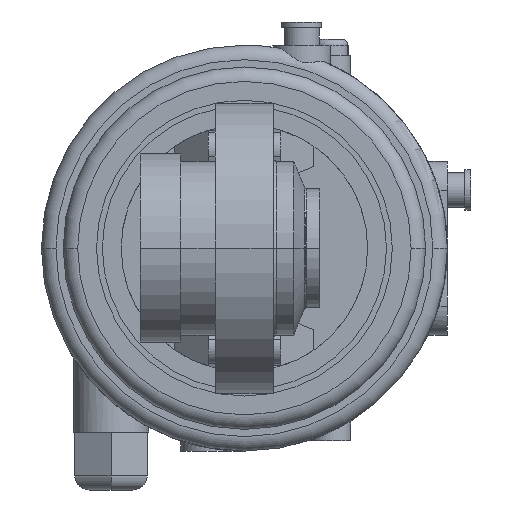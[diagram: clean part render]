
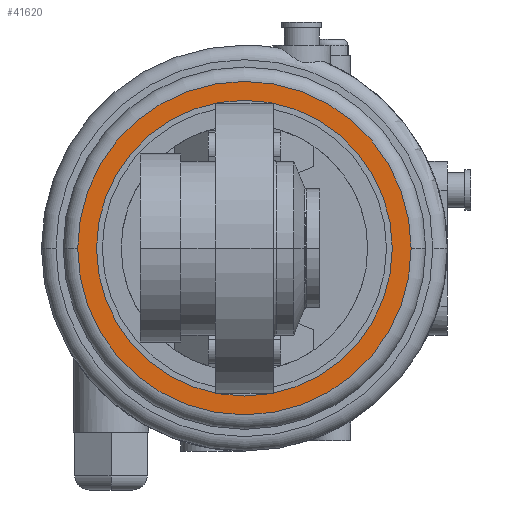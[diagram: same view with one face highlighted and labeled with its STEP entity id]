
A CAD part, front view. The second image highlights one B-rep face of the part: STEP entity #41620.
In plain terms, the highlighted planar face has unit normal (0, -1, 0).
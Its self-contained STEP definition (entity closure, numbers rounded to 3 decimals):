
#40200=CARTESIAN_POINT('',(51.,6.224,0.));
#40210=VERTEX_POINT('',#40200);
#40370=CARTESIAN_POINT('',(-51.,6.224,0.));
#40380=VERTEX_POINT('',#40370);
#40410=CARTESIAN_POINT('',(0.,6.224,0.));
#40420=DIRECTION('',(0.,1.,0.));
#40430=DIRECTION('',(-1.,0.,0.));
#40440=AXIS2_PLACEMENT_3D('',#40410,#40420,#40430);
#40450=CIRCLE('',#40440,51.);
#40460=EDGE_CURVE('',#40380,#40210,#40450,.T.);
#40630=CARTESIAN_POINT('',(57.5,6.224,0.));
#40640=VERTEX_POINT('',#40630);
#40670=CARTESIAN_POINT('',(0.,6.224,0.));
#40680=DIRECTION('',(0.,1.,0.));
#40690=DIRECTION('',(0.,0.,1.));
#40700=AXIS2_PLACEMENT_3D('',#40670,#40680,#40690);
#40710=CIRCLE('',#40700,57.5);
#40720=CARTESIAN_POINT('',(-57.5,6.224,0.));
#40730=VERTEX_POINT('',#40720);
#40740=EDGE_CURVE('',#40730,#40640,#40710,.T.);
#41470=CARTESIAN_POINT('',(0.,6.224,0.));
#41480=DIRECTION('',(0.,1.,0.));
#41490=DIRECTION('',(0.,0.,1.));
#41500=AXIS2_PLACEMENT_3D('',#41470,#41480,#41490);
#41510=PLANE('',#41500);
#41520=EDGE_CURVE('',#40210,#40380,#40450,.T.);
#41530=ORIENTED_EDGE('',*,*,#41520,.T.);
#41540=ORIENTED_EDGE('',*,*,#40460,.T.);
#41550=EDGE_LOOP('',(#41540,#41530));
#41560=FACE_BOUND('',#41550,.T.);
#41570=ORIENTED_EDGE('',*,*,#40740,.F.);
#41580=EDGE_CURVE('',#40640,#40730,#40710,.T.);
#41590=ORIENTED_EDGE('',*,*,#41580,.F.);
#41600=EDGE_LOOP('',(#41590,#41570));
#41610=FACE_OUTER_BOUND('',#41600,.T.);
#41620=ADVANCED_FACE('',(#41560,#41610),#41510,.F.);
